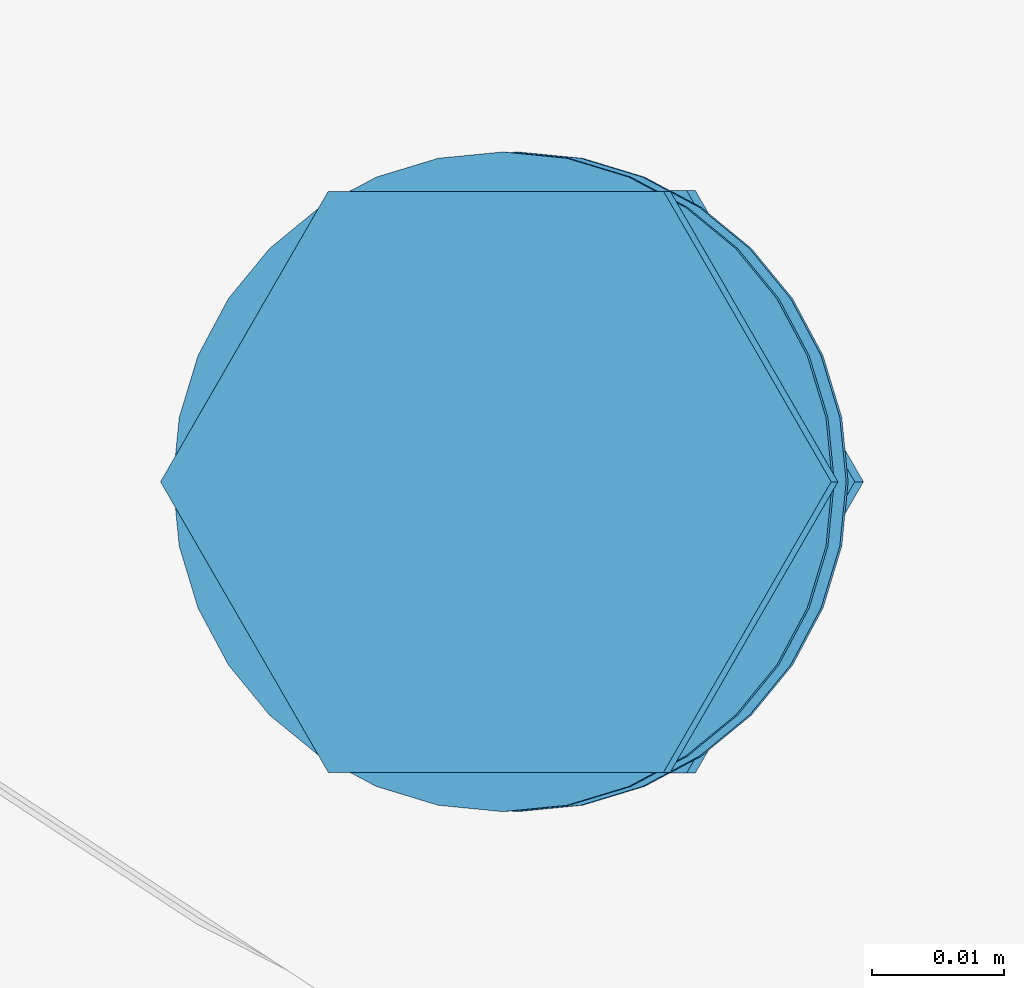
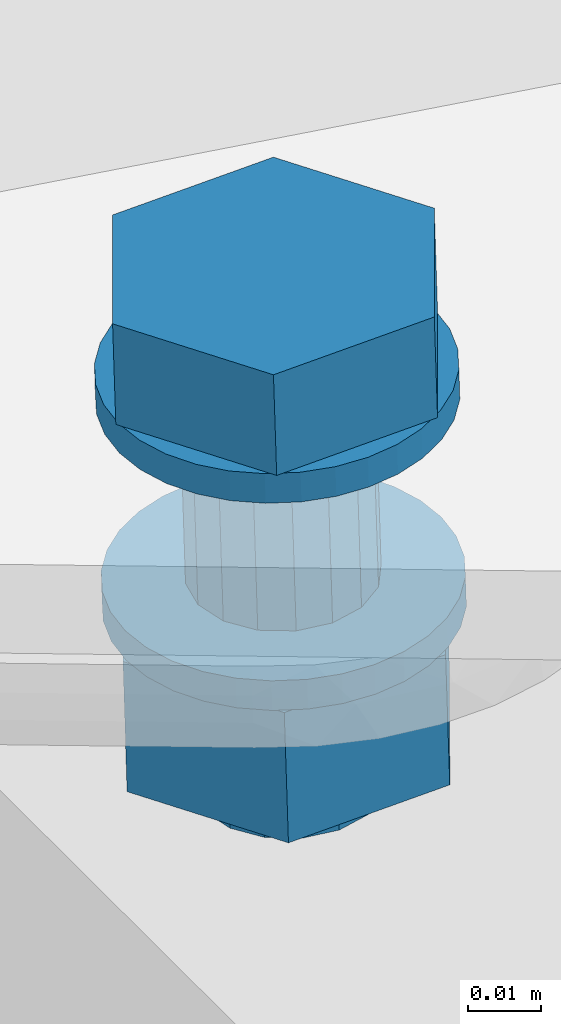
# One storey, part 132 of 476: 1 mechanical fastener.
"""IFC2X3 building model written with IfcOpenShell, lengths in millimetres."""

from ifc_helpers import new_model, entity, si_unit, converted_unit, origin_with_axes, place, context, project, spatial, faceted_brep, element, save


model = new_model("IFC2X3")

# Units and contexts
model_context = context("Model", 3, precision=1e-09, world=origin_with_axes())
ifc_project = project(units=[si_unit("LENGTHUNIT", "METRE", prefix="MILLI"), si_unit("AREAUNIT", "SQUARE_METRE"), si_unit("VOLUMEUNIT", "CUBIC_METRE"), converted_unit("PLANEANGLEUNIT", "DEGREE", entity("IfcPlaneAngleMeasure", 0.01745329), si_unit("PLANEANGLEUNIT", "RADIAN"), dimensions=[0, 0, 0, 0, 0, 0, 0])], contexts=[model_context])

# Site, building, storey
site_placement = place(None, origin_with_axes())
site = spatial("IfcSite", under=ifc_project, at=site_placement, Name="mKR Teilneubau & Sanierung BA1 - Ostfildern", CompositionType="ELEMENT")
building_placement = place(site_placement, origin_with_axes())
building = spatial("IfcBuilding", under=site, at=building_placement, Name="Struktur 1", CompositionType="ELEMENT")
storey_placement = place(building_placement, origin_with_axes())
storey = spatial("IfcBuildingStorey", under=building, at=storey_placement, Name="Default Storey", CompositionType="ELEMENT", Elevation=0.0)

# Mechanical fastener
mechanical_fastener_placement = place(None, origin_with_axes())
element("IfcMechanicalFastener", 1, at=mechanical_fastener_placement, inside=storey, ObjectType="-", NominalDiameter=27.0, NominalLength=70.0, context=model_context, shape_type="Brep", body=[
    faceted_brep([(18286.798489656, -23314.458323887, 5523.48202259), (18286.94844033, -23314.458323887, 5518.484271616), (18282.073376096, -23314.938691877, 5518.33800199), (18281.923425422, -23314.938691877, 5523.335752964), (18277.385657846, -23316.361335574, 5518.197353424), (18277.235707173, -23316.361335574, 5523.195104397), (18273.065431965, -23318.67158358, 5518.067730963), (18272.915481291, -23318.67158358, 5523.065481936), (18269.278722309, -23321.780654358, 5517.954115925), (18269.128771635, -23321.780654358, 5522.951866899), (18266.171050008, -23325.569068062, 5517.860874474), (18266.021099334, -23325.569068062, 5522.858625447), (18263.861841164, -23329.891238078, 5517.791589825), (18263.71189049, -23329.891238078, 5522.789340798), (18262.439837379, -23334.581065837, 5517.748924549), (18262.289886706, -23334.581065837, 5522.746675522), (18261.959685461, -23339.458323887, 5517.734518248), (18261.809734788, -23339.458323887, 5522.732269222), (18262.439837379, -23344.335581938, 5517.748924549), (18262.289886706, -23344.335581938, 5522.746675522), (18263.861841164, -23349.025409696, 5517.791589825), (18263.71189049, -23349.025409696, 5522.789340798), (18266.171050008, -23353.347579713, 5517.860874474), (18266.021099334, -23353.347579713, 5522.858625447), (18269.278722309, -23357.135993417, 5517.954115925), (18269.128771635, -23357.135993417, 5522.951866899), (18273.065431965, -23360.245064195, 5518.067730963), (18272.915481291, -23360.245064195, 5523.065481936), (18277.385657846, -23362.5553122, 5518.197353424), (18277.235707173, -23362.5553122, 5523.195104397), (18282.073376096, -23363.977955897, 5518.33800199), (18281.923425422, -23363.977955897, 5523.335752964), (18286.94844033, -23364.458323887, 5518.484271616), (18286.798489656, -23364.458323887, 5523.48202259), (18291.823504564, -23363.977955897, 5518.630541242), (18291.673553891, -23363.977955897, 5523.628292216), (18296.511222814, -23362.5553122, 5518.771189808), (18296.36127214, -23362.5553122, 5523.768940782), (18300.831448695, -23360.245064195, 5518.900812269), (18300.681498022, -23360.245064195, 5523.898563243), (18304.618158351, -23357.135993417, 5519.014427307), (18304.468207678, -23357.135993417, 5524.01217828), (18307.725830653, -23353.347579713, 5519.107668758), (18307.575879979, -23353.347579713, 5524.105419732), (18310.035039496, -23349.025409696, 5519.176953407), (18309.885088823, -23349.025409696, 5524.174704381), (18311.457043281, -23344.335581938, 5519.219618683), (18311.307092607, -23344.335581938, 5524.217369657), (18311.937195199, -23339.458323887, 5519.234024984), (18311.787244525, -23339.458323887, 5524.231775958), (18311.457043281, -23334.581065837, 5519.219618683), (18311.307092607, -23334.581065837, 5524.217369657), (18310.035039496, -23329.891238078, 5519.176953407), (18309.885088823, -23329.891238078, 5524.174704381), (18307.725830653, -23325.569068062, 5519.107668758), (18307.575879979, -23325.569068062, 5524.105419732), (18304.618158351, -23321.780654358, 5519.014427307), (18304.468207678, -23321.780654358, 5524.01217828), (18300.831448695, -23318.67158358, 5518.900812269), (18300.681498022, -23318.67158358, 5523.898563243), (18296.511222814, -23316.361335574, 5518.771189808), (18296.36127214, -23316.361335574, 5523.768940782), (18291.823504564, -23314.938691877, 5518.630541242), (18291.673553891, -23314.938691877, 5523.628292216)], [[[0, 1, 2, 3]], [[3, 2, 4, 5]], [[5, 4, 6, 7]], [[7, 6, 8, 9]], [[9, 8, 10, 11]], [[11, 10, 12, 13]], [[13, 12, 14, 15]], [[15, 14, 16, 17]], [[17, 16, 18, 19]], [[19, 18, 20, 21]], [[21, 20, 22, 23]], [[23, 22, 24, 25]], [[25, 24, 26, 27]], [[27, 26, 28, 29]], [[29, 28, 30, 31]], [[31, 30, 32, 33]], [[33, 32, 34, 35]], [[35, 34, 36, 37]], [[37, 36, 38, 39]], [[39, 38, 40, 41]], [[41, 40, 42, 43]], [[43, 42, 44, 45]], [[45, 44, 46, 47]], [[47, 46, 48, 49]], [[49, 48, 50, 51]], [[51, 50, 52, 53]], [[53, 52, 54, 55]], [[55, 54, 56, 57]], [[57, 56, 58, 59]], [[59, 58, 60, 61]], [[61, 60, 62, 63]], [[63, 62, 1, 0]], [[0, 3, 5, 7, 9, 11, 13, 15, 17, 19, 21, 23, 25, 27, 29, 31, 33, 35, 37, 39, 41, 43, 45, 47, 49, 51, 53, 55, 57, 59, 61, 63]], [[1, 62, 60, 58, 56, 54, 52, 50, 48, 46, 44, 42, 40, 38, 36, 34, 32, 30, 28, 26, 24, 22, 20, 18, 16, 14, 12, 10, 8, 6, 4, 2]]]),
    faceted_brep([(18274.091707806, -23361.477019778, 5523.100773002), (18273.581875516, -23361.477019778, 5540.093126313), (18260.875093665, -23339.458323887, 5539.711876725), (18261.384925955, -23339.458323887, 5522.719523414), (18273.581875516, -23317.439627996, 5540.093126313), (18274.091707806, -23317.439627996, 5523.100773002), (18298.995439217, -23317.439627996, 5540.855625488), (18299.505271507, -23317.439627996, 5523.863272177), (18311.702221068, -23339.458323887, 5541.236875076), (18312.212053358, -23339.458323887, 5524.244521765), (18298.995439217, -23361.477019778, 5540.855625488), (18299.505271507, -23361.477019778, 5523.863272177)], [[[0, 1, 2, 3]], [[3, 2, 4, 5]], [[5, 4, 6, 7]], [[7, 6, 8, 9]], [[9, 8, 10, 11]], [[11, 10, 1, 0]], [[4, 2, 1, 10, 8, 6]], [[0, 3, 5, 7, 9, 11]]]),
    faceted_brep([(18286.948428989, -23325.958323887, 5518.484649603), (18287.848165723, -23325.958323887, 5488.497054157), (18282.684263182, -23326.985950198, 5488.342118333), (18281.784526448, -23326.985950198, 5518.329713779), (18278.306517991, -23329.912382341, 5488.210770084), (18277.406781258, -23329.912382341, 5518.19836553), (18275.381402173, -23334.29209755, 5488.123005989), (18274.481665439, -23334.29209755, 5518.110601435), (18274.354238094, -23339.458323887, 5488.092187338), (18273.45450136, -23339.458323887, 5518.079782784), (18275.381402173, -23344.624550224, 5488.123005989), (18274.481665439, -23344.624550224, 5518.110601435), (18278.306517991, -23349.004265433, 5488.210770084), (18277.406781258, -23349.004265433, 5518.19836553), (18282.684263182, -23351.930697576, 5488.342118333), (18281.784526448, -23351.930697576, 5518.329713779), (18287.848165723, -23352.958323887, 5488.497054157), (18286.948428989, -23352.958323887, 5518.484649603), (18293.012068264, -23351.930697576, 5488.65198998), (18292.11233153, -23351.930697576, 5518.639585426), (18297.389813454, -23349.004265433, 5488.78333823), (18296.49007672, -23349.004265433, 5518.770933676), (18300.314929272, -23344.624550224, 5488.871102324), (18299.415192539, -23344.624550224, 5518.85869777), (18301.342093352, -23339.458323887, 5488.901920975), (18300.442356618, -23339.458323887, 5518.889516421), (18300.314929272, -23334.29209755, 5488.871102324), (18299.415192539, -23334.29209755, 5518.85869777), (18297.389813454, -23329.912382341, 5488.78333823), (18296.49007672, -23329.912382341, 5518.770933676), (18293.012068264, -23326.985950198, 5488.65198998), (18292.11233153, -23326.985950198, 5518.639585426)], [[[0, 1, 2, 3]], [[3, 2, 4, 5]], [[5, 4, 6, 7]], [[7, 6, 8, 9]], [[9, 8, 10, 11]], [[11, 10, 12, 13]], [[13, 12, 14, 15]], [[15, 14, 16, 17]], [[17, 16, 18, 19]], [[19, 18, 20, 21]], [[21, 20, 22, 23]], [[23, 22, 24, 25]], [[25, 24, 26, 27]], [[27, 26, 28, 29]], [[29, 28, 30, 31]], [[31, 30, 1, 0]], [[0, 3, 5, 7, 9, 11, 13, 15, 17, 19, 21, 23, 25, 27, 29, 31]], [[1, 30, 28, 26, 24, 22, 20, 18, 16, 14, 12, 10, 8, 6, 4, 2]]]),
    faceted_brep([(18287.848165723, -23314.458323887, 5488.497054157), (18287.998116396, -23314.458323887, 5483.499303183), (18283.123052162, -23314.938691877, 5483.353033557), (18282.973101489, -23314.938691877, 5488.350784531), (18278.435333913, -23316.361335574, 5483.212384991), (18278.285383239, -23316.361335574, 5488.210135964), (18274.115108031, -23318.67158358, 5483.082762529), (18273.965157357, -23318.67158358, 5488.080513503), (18270.328398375, -23321.780654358, 5482.969147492), (18270.178447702, -23321.780654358, 5487.966898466), (18267.220726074, -23325.569068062, 5482.875906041), (18267.0707754, -23325.569068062, 5487.873657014), (18264.91151723, -23329.891238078, 5482.806621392), (18264.761566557, -23329.891238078, 5487.804372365), (18263.489513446, -23334.581065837, 5482.763956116), (18263.339562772, -23334.581065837, 5487.761707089), (18263.009361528, -23339.458323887, 5482.749549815), (18262.859410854, -23339.458323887, 5487.747300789), (18263.489513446, -23344.335581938, 5482.763956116), (18263.339562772, -23344.335581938, 5487.761707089), (18264.91151723, -23349.025409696, 5482.806621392), (18264.761566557, -23349.025409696, 5487.804372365), (18267.220726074, -23353.347579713, 5482.875906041), (18267.0707754, -23353.347579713, 5487.873657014), (18270.328398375, -23357.135993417, 5482.969147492), (18270.178447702, -23357.135993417, 5487.966898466), (18274.115108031, -23360.245064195, 5483.082762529), (18273.965157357, -23360.245064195, 5488.080513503), (18278.435333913, -23362.5553122, 5483.212384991), (18278.285383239, -23362.5553122, 5488.210135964), (18283.123052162, -23363.977955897, 5483.353033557), (18282.973101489, -23363.977955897, 5488.350784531), (18287.998116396, -23364.458323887, 5483.499303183), (18287.848165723, -23364.458323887, 5488.497054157), (18292.87318063, -23363.977955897, 5483.645572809), (18292.723229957, -23363.977955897, 5488.643323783), (18297.56089888, -23362.5553122, 5483.786221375), (18297.410948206, -23362.5553122, 5488.783972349), (18301.881124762, -23360.245064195, 5483.915843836), (18301.731174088, -23360.245064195, 5488.91359481), (18305.667834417, -23357.135993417, 5484.029458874), (18305.517883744, -23357.135993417, 5489.027209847), (18308.775506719, -23353.347579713, 5484.122700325), (18308.625556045, -23353.347579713, 5489.120451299), (18311.084715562, -23349.025409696, 5484.191984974), (18310.934764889, -23349.025409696, 5489.189735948), (18312.506719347, -23344.335581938, 5484.23465025), (18312.356768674, -23344.335581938, 5489.232401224), (18312.986871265, -23339.458323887, 5484.249056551), (18312.836920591, -23339.458323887, 5489.246807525), (18312.506719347, -23334.581065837, 5484.23465025), (18312.356768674, -23334.581065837, 5489.232401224), (18311.084715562, -23329.891238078, 5484.191984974), (18310.934764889, -23329.891238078, 5489.189735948), (18308.775506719, -23325.569068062, 5484.122700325), (18308.625556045, -23325.569068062, 5489.120451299), (18305.667834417, -23321.780654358, 5484.029458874), (18305.517883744, -23321.780654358, 5489.027209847), (18301.881124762, -23318.67158358, 5483.915843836), (18301.731174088, -23318.67158358, 5488.91359481), (18297.56089888, -23316.361335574, 5483.786221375), (18297.410948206, -23316.361335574, 5488.783972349), (18292.87318063, -23314.938691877, 5483.645572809), (18292.723229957, -23314.938691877, 5488.643323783)], [[[0, 1, 2, 3]], [[3, 2, 4, 5]], [[5, 4, 6, 7]], [[7, 6, 8, 9]], [[9, 8, 10, 11]], [[11, 10, 12, 13]], [[13, 12, 14, 15]], [[15, 14, 16, 17]], [[17, 16, 18, 19]], [[19, 18, 20, 21]], [[21, 20, 22, 23]], [[23, 22, 24, 25]], [[25, 24, 26, 27]], [[27, 26, 28, 29]], [[29, 28, 30, 31]], [[31, 30, 32, 33]], [[33, 32, 34, 35]], [[35, 34, 36, 37]], [[37, 36, 38, 39]], [[39, 38, 40, 41]], [[41, 40, 42, 43]], [[43, 42, 44, 45]], [[45, 44, 46, 47]], [[47, 46, 48, 49]], [[49, 48, 50, 51]], [[51, 50, 52, 53]], [[53, 52, 54, 55]], [[55, 54, 56, 57]], [[57, 56, 58, 59]], [[59, 58, 60, 61]], [[61, 60, 62, 63]], [[63, 62, 1, 0]], [[0, 3, 5, 7, 9, 11, 13, 15, 17, 19, 21, 23, 25, 27, 29, 31, 33, 35, 37, 39, 41, 43, 45, 47, 49, 51, 53, 55, 57, 59, 61, 63]], [[1, 62, 60, 58, 56, 54, 52, 50, 48, 46, 44, 42, 40, 38, 36, 34, 32, 30, 28, 26, 24, 22, 20, 18, 16, 14, 12, 10, 8, 6, 4, 2]]]),
    faceted_brep([(18275.913634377, -23361.541971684, 5461.126824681), (18275.253851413, -23361.541971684, 5483.116928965), (18262.50958643, -23339.458323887, 5482.734554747), (18263.169369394, -23339.458323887, 5460.744450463), (18275.253851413, -23317.374676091, 5483.116928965), (18275.913634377, -23317.374676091, 5461.126824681), (18300.742381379, -23317.374676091, 5483.8816774), (18301.402164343, -23317.374676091, 5461.891573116), (18313.486646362, -23339.458323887, 5484.264051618), (18314.146429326, -23339.458323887, 5462.273947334), (18300.742381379, -23361.541971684, 5483.8816774), (18301.402164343, -23361.541971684, 5461.891573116)], [[[0, 1, 2, 3]], [[3, 2, 4, 5]], [[5, 4, 6, 7]], [[7, 6, 8, 9]], [[9, 8, 10, 11]], [[11, 10, 1, 0]], [[4, 2, 1, 10, 8, 6]], [[0, 3, 5, 7, 9, 11]]]),
    faceted_brep([(18288.657910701, -23325.958323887, 5461.508820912), (18288.897799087, -23325.958323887, 5453.513508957), (18283.733896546, -23326.985950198, 5453.358573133), (18283.49400816, -23326.985950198, 5461.353885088), (18279.356151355, -23329.912382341, 5453.227224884), (18279.11626297, -23329.912382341, 5461.222536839), (18276.431035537, -23334.29209755, 5453.13946079), (18276.191147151, -23334.29209755, 5461.134772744), (18275.403871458, -23339.458323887, 5453.108642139), (18275.163983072, -23339.458323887, 5461.103954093), (18276.431035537, -23344.624550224, 5453.13946079), (18276.191147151, -23344.624550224, 5461.134772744), (18279.356151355, -23349.004265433, 5453.227224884), (18279.11626297, -23349.004265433, 5461.222536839), (18283.733896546, -23351.930697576, 5453.358573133), (18283.49400816, -23351.930697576, 5461.353885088), (18288.897799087, -23352.958323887, 5453.513508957), (18288.657910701, -23352.958323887, 5461.508820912), (18294.061701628, -23351.930697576, 5453.668444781), (18293.821813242, -23351.930697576, 5461.663756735), (18298.439446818, -23349.004265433, 5453.79979303), (18298.199558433, -23349.004265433, 5461.795104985), (18301.364562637, -23344.624550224, 5453.887557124), (18301.124674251, -23344.624550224, 5461.882869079), (18302.391726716, -23339.458323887, 5453.918375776), (18302.15183833, -23339.458323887, 5461.91368773), (18301.364562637, -23334.29209755, 5453.887557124), (18301.124674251, -23334.29209755, 5461.882869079), (18298.439446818, -23329.912382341, 5453.79979303), (18298.199558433, -23329.912382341, 5461.795104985), (18294.061701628, -23326.985950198, 5453.668444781), (18293.821813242, -23326.985950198, 5461.663756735)], [[[0, 1, 2, 3]], [[3, 2, 4, 5]], [[5, 4, 6, 7]], [[7, 6, 8, 9]], [[9, 8, 10, 11]], [[11, 10, 12, 13]], [[13, 12, 14, 15]], [[15, 14, 16, 17]], [[17, 16, 18, 19]], [[19, 18, 20, 21]], [[21, 20, 22, 23]], [[23, 22, 24, 25]], [[25, 24, 26, 27]], [[27, 26, 28, 29]], [[29, 28, 30, 31]], [[31, 30, 1, 0]], [[0, 3, 5, 7, 9, 11, 13, 15, 17, 19, 21, 23, 25, 27, 29, 31]], [[1, 30, 28, 26, 24, 22, 20, 18, 16, 14, 12, 10, 8, 6, 4, 2]]]),
])

save(model, "model.ifc")
